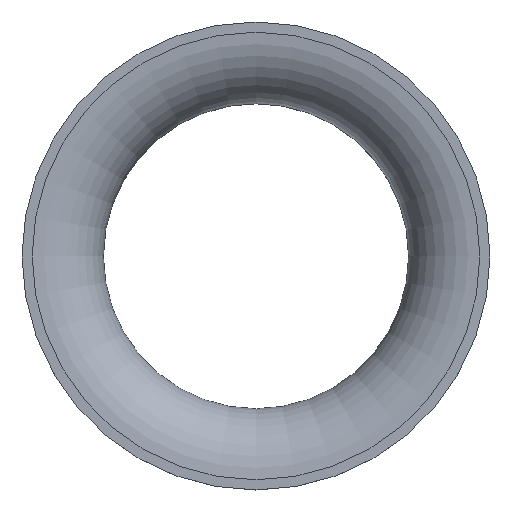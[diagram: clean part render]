
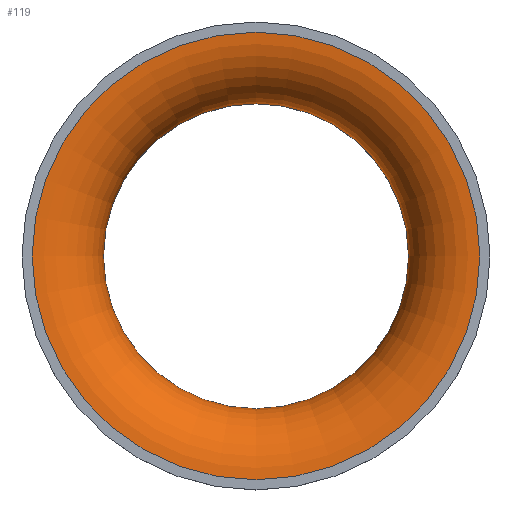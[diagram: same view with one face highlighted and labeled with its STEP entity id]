
A CAD part, top view. The second image highlights one B-rep face of the part: STEP entity #119.
In plain terms, the highlighted toroidal (fillet/blend) face has major radius 11 mm and minor radius 3.5 mm.
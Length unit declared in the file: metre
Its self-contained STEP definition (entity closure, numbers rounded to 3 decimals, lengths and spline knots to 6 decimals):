
#15=TOROIDAL_SURFACE('',#152,0.011,0.0035);
#33=ORIENTED_EDGE('',*,*,#41,.F.);
#34=ORIENTED_EDGE('',*,*,#44,.F.);
#41=EDGE_CURVE('',#51,#51,#61,.F.);
#44=EDGE_CURVE('',#54,#54,#64,.T.);
#51=VERTEX_POINT('',#205);
#54=VERTEX_POINT('',#213);
#61=CIRCLE('',#139,0.011);
#64=CIRCLE('',#144,0.0075);
#83=EDGE_LOOP('',(#33));
#84=EDGE_LOOP('',(#34));
#103=FACE_BOUND('',#83,.T.);
#104=FACE_BOUND('',#84,.T.);
#119=ADVANCED_FACE('',(#103,#104),#15,.T.);
#139=AXIS2_PLACEMENT_3D('',#204,#165,#166);
#144=AXIS2_PLACEMENT_3D('',#212,#175,#176);
#152=AXIS2_PLACEMENT_3D('',#225,#191,#192);
#165=DIRECTION('',(0.,0.,1.));
#166=DIRECTION('',(1.,0.,0.));
#175=DIRECTION('',(0.,0.,1.));
#176=DIRECTION('',(1.,0.,0.));
#191=DIRECTION('',(0.,0.,1.));
#192=DIRECTION('',(1.,0.,0.));
#204=CARTESIAN_POINT('',(0.,0.,0.001));
#205=CARTESIAN_POINT('',(0.011,0.,0.001));
#212=CARTESIAN_POINT('',(0.,0.,-0.0025));
#213=CARTESIAN_POINT('',(0.0075,0.,-0.0025));
#225=CARTESIAN_POINT('',(0.,0.,-0.0025));
